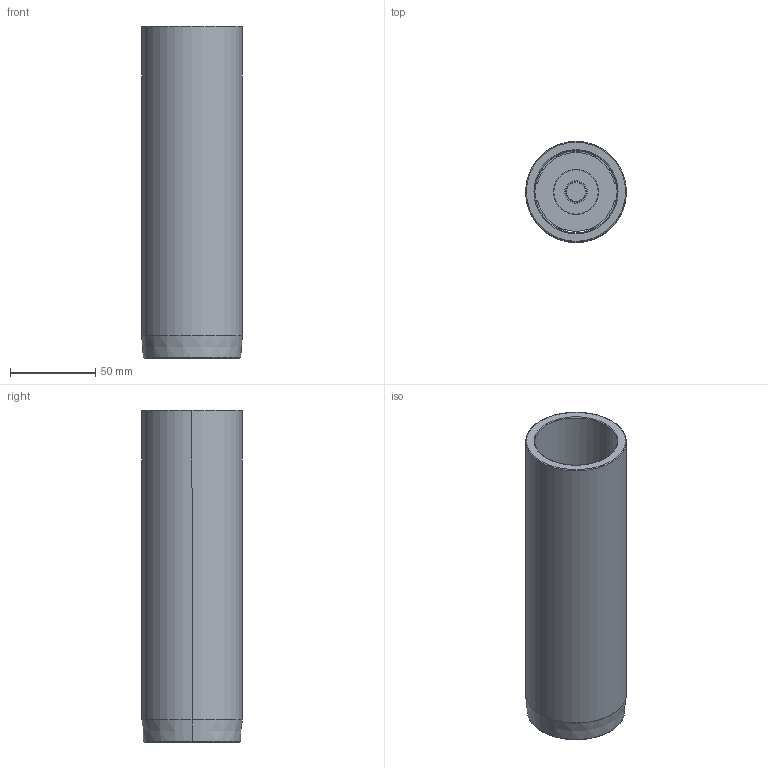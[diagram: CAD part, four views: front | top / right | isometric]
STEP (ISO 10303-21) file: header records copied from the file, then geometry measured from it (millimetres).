
FILE_DESCRIPTION((''),'2;1');
FILE_NAME('C12_048_195.stp','2009-01-28T14:15:49',(''),(''),'Mechanical Desktop 2009','Mechanical Desktop 2009',', , ');
FILE_SCHEMA(('CONFIG_CONTROL_DESIGN'));
Length unit declared in the file: millimetre
Products named in the file (2): Product; blmdl1
Assembly tree (1 placements, depth 2):
  Product
    blmdl1
Bounding box: 59.25 x 59.25 x 195 mm (x, y, z)
Volume: 182494.2 mm3; surface area: 77217.7 mm2
Topology: 5 solids, 5 shells, 79 faces, 200 edges, 134 vertices
Faces by surface type: cylinder 34, plane 29, torus 10, cone 6
Entity records: 2585 total; most frequent: DIRECTION 480, CARTESIAN_POINT 435, ORIENTED_EDGE 400, AXIS2_PLACEMENT_3D 203, EDGE_CURVE 200, VERTEX_POINT 134, CIRCLE 122, EDGE_LOOP 92
